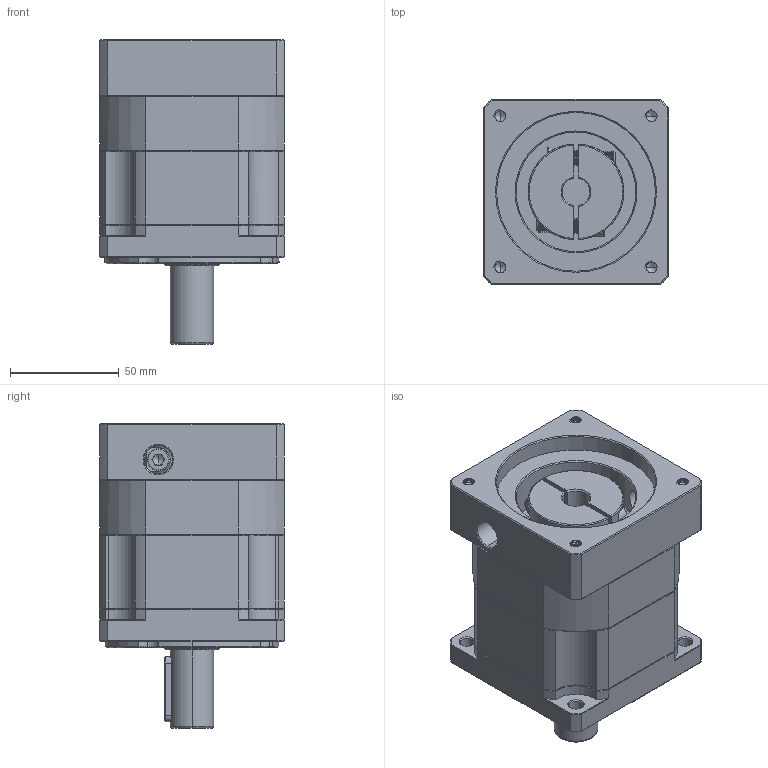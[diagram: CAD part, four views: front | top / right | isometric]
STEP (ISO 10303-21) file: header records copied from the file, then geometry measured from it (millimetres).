
FILE_DESCRIPTION (( 'STEP AP214' ), '1' );
FILE_NAME ('ZB90-D20-L1-12.7-73-69.5X69.5-M6.STEP', '2022-05-02T15:30:53', ( '' ), ( 'Microsoft' ), 'SwSTEP 2.0', 'SolidWorks 2016', '' );
FILE_SCHEMA (( 'AUTOMOTIVE_DESIGN' ));
Length unit declared in the file: millimetre
Products named in the file (1): ZB90-D20-L1-12.7-73-69.5X69.5-M6
Bounding box: 85 x 85 x 140 mm (x, y, z)
Volume: 607600.6 mm3; surface area: 86483.4 mm2
Topology: 4 solids, 5 shells, 1939 faces, 5064 edges, 3205 vertices
Faces by surface type: plane 882, cylinder 396, cone 335, bspline 299, torus 27
Entity records: 104625 total; most frequent: CARTESIAN_POINT 38370, ORIENTED_EDGE 10084, DIRECTION 8192, EDGE_CURVE 5042, VERTEX_POINT 3205, LINE 3102, VECTOR 3102, AXIS2_PLACEMENT_3D 2545
